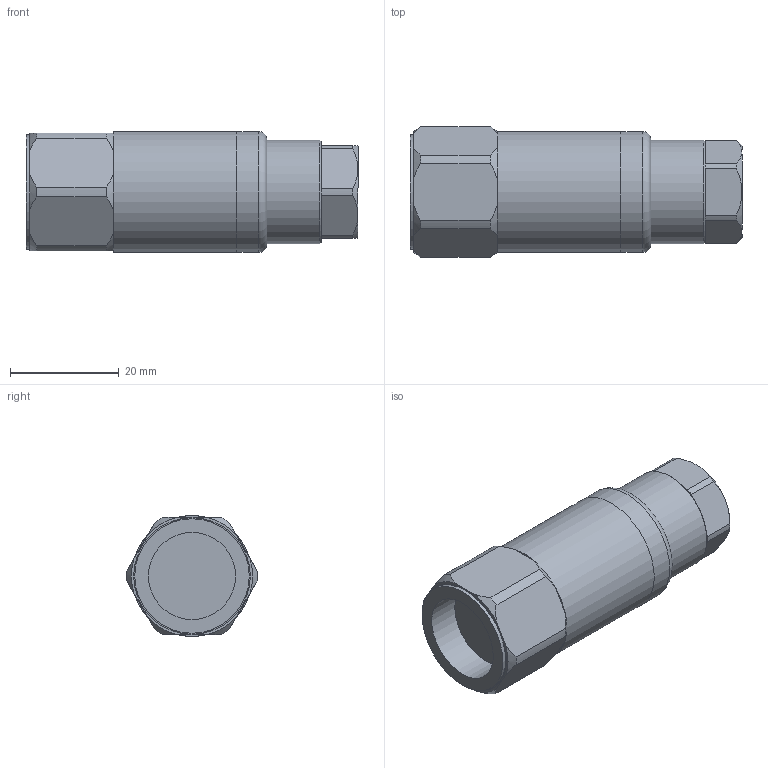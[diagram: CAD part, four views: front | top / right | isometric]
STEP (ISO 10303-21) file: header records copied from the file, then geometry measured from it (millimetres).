
FILE_DESCRIPTION(/* description */ (''),/* implementation_level */ '2;1');
FILE_NAME(/* name */ 'Z:\Engineering\Drawings\3D Library\Assemblies\Website\Premium Top\HS-150 Silicon\HS-150XXX0705stp.stp',/* time_stamp */ '2023-02-28T21:30:01+00:00',/* author */ ('Ricardo.Peneda'),/* organization */ (''),/* preprocessor_version */ 'ST-DEVELOPER v18.1',/* originating_system */ 'Autodesk Inventor 2021',/* authorisation */ '');
FILE_SCHEMA (('AUTOMOTIVE_DESIGN { 1 0 10303 214 3 1 1 }'));
Length unit declared in the file: inch
Products named in the file (1): HS-150XXX0705_Shrinkwrap_1
Bounding box: 60.95 x 23.99 x 22.2 mm (x, y, z)
Volume: 12532.1 mm3; surface area: 8712.6 mm2
Topology: 3 solids, 3 shells, 80 faces, 206 edges, 144 vertices
Faces by surface type: plane 36, cylinder 27, cone 16, torus 1
Full cylindrical faces by diameter (mm): 9 x1, 12 x2, 14 x1, 15 x2, 15.055 x1, 16 x1, 18 x1, 19 x1, 19.95 x1, 20 x1, 21 x1, 22.2 x2
Entity records: 2612 total; most frequent: CARTESIAN_POINT 503, DIRECTION 441, ORIENTED_EDGE 412, EDGE_CURVE 206, AXIS2_PLACEMENT_3D 190, VERTEX_POINT 144, CIRCLE 109, EDGE_LOOP 96
